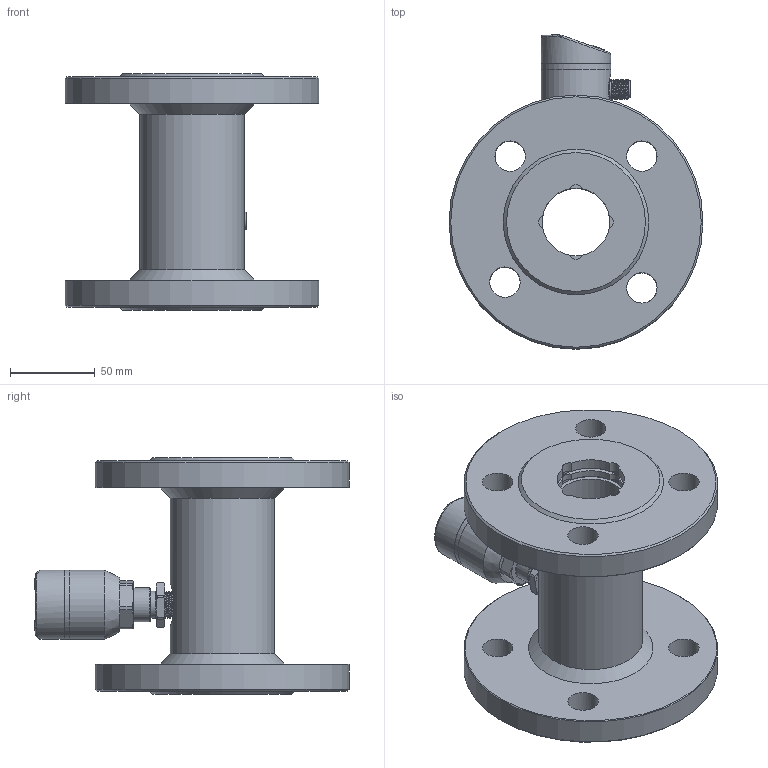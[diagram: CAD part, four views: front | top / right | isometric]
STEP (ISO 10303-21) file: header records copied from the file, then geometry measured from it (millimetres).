
FILE_DESCRIPTION( (''), '2;1');
FILE_NAME( 'QTKC_DN65_flange_Ex.step', '2024-10-14T10:28:05+08:00', (''), (''), '', '', '');
FILE_SCHEMA (('AUTOMOTIVE_DESIGN { 1 0 10303 214 3 1 1 1 }'));
Length unit declared in the file: millimetre
Products named in the file (1): QTKC DN65_flange_Ex
Bounding box: 150 x 185.8 x 140 mm (x, y, z)
Volume: 725037.1 mm3; surface area: 144675.3 mm2
Topology: 5 solids, 7 shells, 485 faces, 1179 edges, 754 vertices
Faces by surface type: cylinder 184, plane 158, cone 56, bspline 42, torus 39, sphere 6
Full cylindrical faces by diameter (mm): 1 x5, 2.7 x4, 8.4 x1, 9.7 x1, 9.8 x1, 10.1 x1, 11.6 x1, 12 x1, 15.9 x1, 16.5 x1, 18 x8, 20 x1, 23 x3, 26 x4, 26.1 x1, 37 x1, 40 x1, 41 x3, 45 x4, 61.5 x1, 150 x2
Entity records: 31211 total; most frequent: CARTESIAN_POINT 18972, DIRECTION 2226, ORIENTED_EDGE 2118, EDGE_CURVE 1059, AXIS2_PLACEMENT_3D 910, VERTEX_POINT 708, EDGE_LOOP 627, ADVANCED_FACE 483
